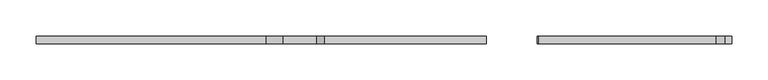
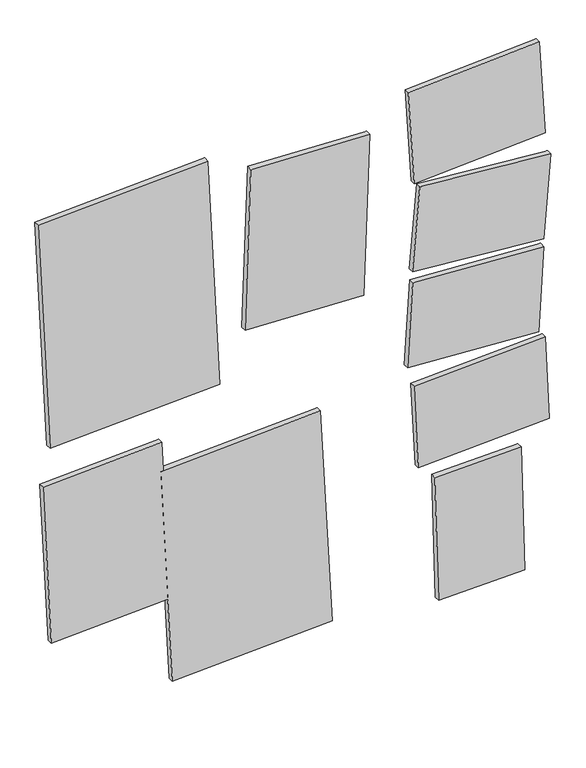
"""IFC4 building model written with IfcOpenShell, lengths in millimetres: geographic element geometry, Enscape AssetDefinition - Moodboard Sheets 001 : Enscape AssetDefinition - Moodboard Sheets 001."""

from ifc_helpers import new_model, si_unit, origin, place, context, project, spatial, triangles, source, transform, mapped, element, save


def geographic_element_18fc9355(model_context):
    return source(origin(), model_context, "Body", "Tessellation", [
        triangles([(-120.8693301, -10.5226692, 75.4373058), (-120.8693301, -0.241605, 75.4373058), (-438.9551471, -10.5226692, 59.4605376), (-461.5478087, -10.5226692, 509.3444552), (-143.467115, -10.5226692, 525.3212417), (-143.467115, -0.241605, 525.3212417), (-438.9551471, -0.241605, 59.4605376), (-461.5478087, -0.241605, 509.3444552), (444.2756435, -10.6100594, -246.663287), (444.2756435, -0.3289941, -246.663287), (289.4325332, -0.3289941, -497.403033), (282.5493596, -0.3289941, -251.1818338), (289.4325332, -10.6100594, -497.403033), (451.1536394, -10.6100594, -492.8844861), (451.1536394, -0.3289941, -492.8844861), (282.5493596, -10.6100594, -251.1818338), (-231.59126, -10.5226692, -59.3268793), (89.954175, -10.5226692, -467.8141414), (-209.8005298, -10.5226692, -483.2254463), (-209.8005298, -0.241605, -483.2254463), (68.1583124, -0.241605, -43.9207067), (-231.59126, -0.241605, -59.3268793), (89.954175, -0.241605, -467.8141414), (68.1583124, -10.5226692, -43.9207067), (497.5418326, -10.6100594, -208.6799223), (251.5211118, -10.6100594, -220.7087484), (251.5211118, -0.3289941, -220.7087484), (243.4967288, -0.3289941, -56.6178241), (243.4967288, -10.6100594, -56.6178241), (489.5174678, -0.3289941, -44.5889753), (497.5418326, -0.3289941, -208.6799223), (489.5174678, -10.6100594, -44.5889753), (-213.8358576, -10.5278106, -317.232526), (-229.52478, -10.5278106, -2.308099), (-213.8358576, -0.2467456, -317.232526), (-229.52478, -0.2467456, -2.308099), (-452.1868976, -0.2467456, -13.3962265), (-452.1868976, -10.5278106, -13.3962265), (-436.4979933, -0.2467456, -328.3206573), (-436.4979933, -10.5278106, -328.3206573), (-73.4222217, -10.5226692, 165.0624902), (149.4146989, -10.5226692, 157.2642925), (-62.3957781, -10.5226692, 480.1873687), (-73.4222217, -0.241605, 165.0624902), (-62.3957781, -0.241605, 480.1873687), (160.4411516, -0.241605, 472.3891891), (149.4146989, -0.241605, 157.2642925), (160.4411516, -10.5226692, 472.3891891), (486.3663157, -10.6100594, 150.6638687), (500.1275396, -10.6100594, 314.3538136), (240.9110581, -10.6100594, 171.3030976), (254.6773872, -10.6100594, 334.9879466), (254.6773872, -0.3289941, 334.9879466), (500.1275396, -0.3289941, 314.3538136), (240.9110581, -0.3289941, 171.3030976), (486.3663157, -0.3289941, 150.6638687), (477.2830038, -10.6100594, -30.4936374), (241.1577909, -10.6100594, 149.7231467), (231.3907817, -10.6100594, -15.9921959), (487.0499949, -0.3289941, 135.2268295), (487.0499949, -10.6100594, 135.2268295), (241.1577909, -0.3289941, 149.7231467), (231.3907817, -0.3289941, -15.9921959), (477.2830038, -0.3289941, -30.4936374), (244.206115, -10.6100594, 344.7086469), (478.7531902, -10.6100594, 544.0379408), (244.206115, -0.3289941, 344.7086469), (490.0623837, -10.6100594, 359.8012576), (232.8969579, -10.6100594, 528.94533), (232.8969579, -0.3289941, 528.94533), (490.0623837, -0.3289941, 359.8012576), (478.7531902, -0.3289941, 544.0379408)], [[71, 72, 66], [70, 72, 71], [67, 70, 71], [70, 67, 65], [69, 66, 72], [72, 70, 69], [65, 69, 70], [66, 68, 71], [68, 65, 67], [67, 71, 68], [68, 66, 69], [68, 69, 65], [64, 60, 61], [62, 60, 64], [63, 62, 64], [62, 63, 59], [58, 61, 60], [60, 62, 58], [59, 58, 62], [61, 57, 64], [57, 59, 63], [63, 64, 57], [57, 61, 58], [57, 58, 59], [56, 54, 50], [53, 54, 56], [55, 53, 56], [53, 55, 51], [52, 50, 54], [54, 53, 52], [51, 52, 53], [50, 49, 56], [49, 51, 55], [55, 56, 49], [49, 50, 52], [49, 52, 51], [47, 46, 48], [45, 46, 47], [44, 45, 47], [45, 44, 41], [43, 48, 46], [46, 45, 43], [41, 43, 45], [48, 42, 47], [42, 41, 44], [44, 47, 42], [42, 48, 43], [42, 43, 41], [35, 36, 34], [37, 36, 35], [39, 37, 35], [37, 39, 40], [38, 34, 36], [36, 37, 38], [40, 38, 37], [34, 33, 35], [33, 40, 39], [39, 35, 33], [33, 34, 38], [33, 38, 40], [31, 30, 32], [28, 30, 31], [27, 28, 31], [28, 27, 26], [29, 32, 30], [30, 28, 29], [26, 29, 28], [32, 25, 31], [25, 26, 27], [27, 31, 25], [25, 32, 29], [25, 29, 26], [23, 21, 24], [22, 21, 23], [20, 22, 23], [22, 20, 19], [17, 24, 21], [21, 22, 17], [19, 17, 22], [24, 18, 23], [18, 19, 20], [20, 23, 18], [18, 24, 17], [18, 17, 19], [10, 12, 16], [11, 12, 10], [15, 11, 10], [11, 15, 14], [13, 16, 12], [12, 11, 13], [14, 13, 11], [16, 9, 10], [9, 14, 15], [15, 10, 9], [9, 16, 13], [9, 13, 14], [2, 6, 5], [8, 6, 2], [7, 8, 2], [8, 7, 3], [4, 5, 6], [6, 8, 4], [3, 4, 8], [5, 1, 2], [1, 3, 7], [7, 2, 1], [1, 5, 4], [1, 4, 3]]),
    ])


if __name__ == "__main__":
    model = new_model("IFC4")
    model_context = context("Model", 3, world=origin())
    ifc_project = project(units=[si_unit("LENGTHUNIT", "METRE", prefix="MILLI")], contexts=[model_context])
    site = spatial("IfcSite", under=ifc_project)
    building = spatial("IfcBuilding", under=site)
    placement = place(None, origin())
    geographic_element_shape = geographic_element_18fc9355(model_context)
    element("IfcGeographicElement", 1, ObjectType="Enscape AssetDefinition - Moodboard Sheets 001 : Enscape AssetDefinition - Moodboard Sheets 001", at=placement, inside=building, context=model_context, shape_type="MappedRepresentation", body=[
        mapped(geographic_element_shape, transform((0.0, 0.0, 0.0), x_axis=(1.0, 0.0, 0.0), y_axis=(0.0, 1.0, 0.0), z_axis=(0.0, 0.0, 1.0))),
    ])
    save(model, "model.ifc")
